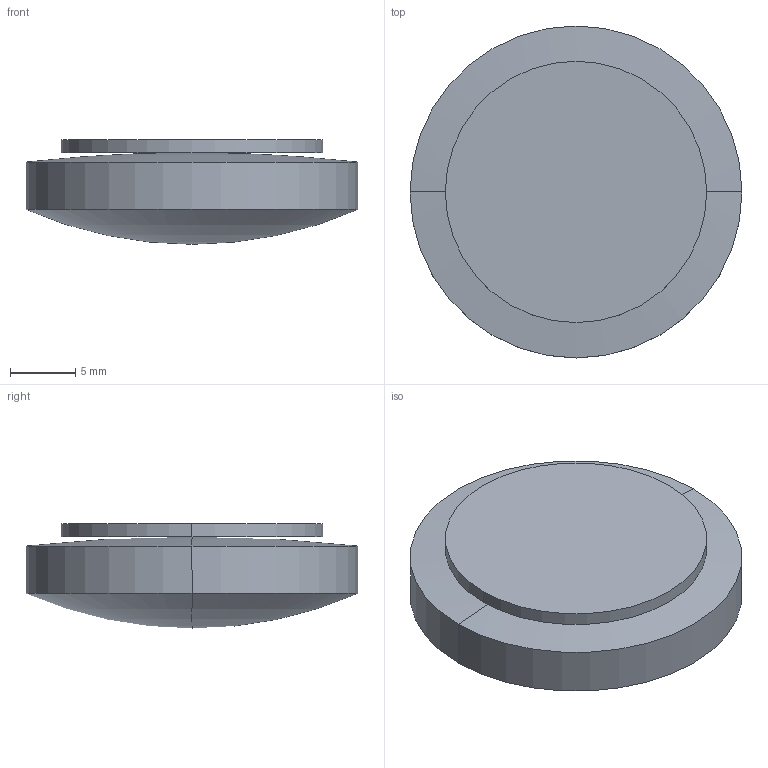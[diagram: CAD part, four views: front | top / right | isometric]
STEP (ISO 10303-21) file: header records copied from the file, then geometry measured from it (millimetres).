
FILE_DESCRIPTION(('STEP AP214'),'1');
FILE_NAME('LLF-25-63.STEP','2020-03-09T17:41:22',(' '),(' '),'Spatial InterOp 3D',' ',' ');
FILE_SCHEMA(('AUTOMOTIVE_DESIGN { 1 0 10303 214 1 1 1 1 }'));
Length unit declared in the file: millimetre
Products named in the file (1): 1
Bounding box: 25.4 x 25.4 x 8 mm (x, y, z)
Volume: 3018 mm3; surface area: 2018.3 mm2
Topology: 2 solids, 2 shells, 10 faces, 20 edges, 10 vertices
Faces by surface type: sphere 4, cylinder 4, plane 2
Entity records: 255 total; most frequent: DIRECTION 52, CARTESIAN_POINT 38, ORIENTED_EDGE 32, AXIS2_PLACEMENT_3D 24, EDGE_CURVE 16, CIRCLE 12, ADVANCED_FACE 10, FACE_OUTER_BOUND 10
